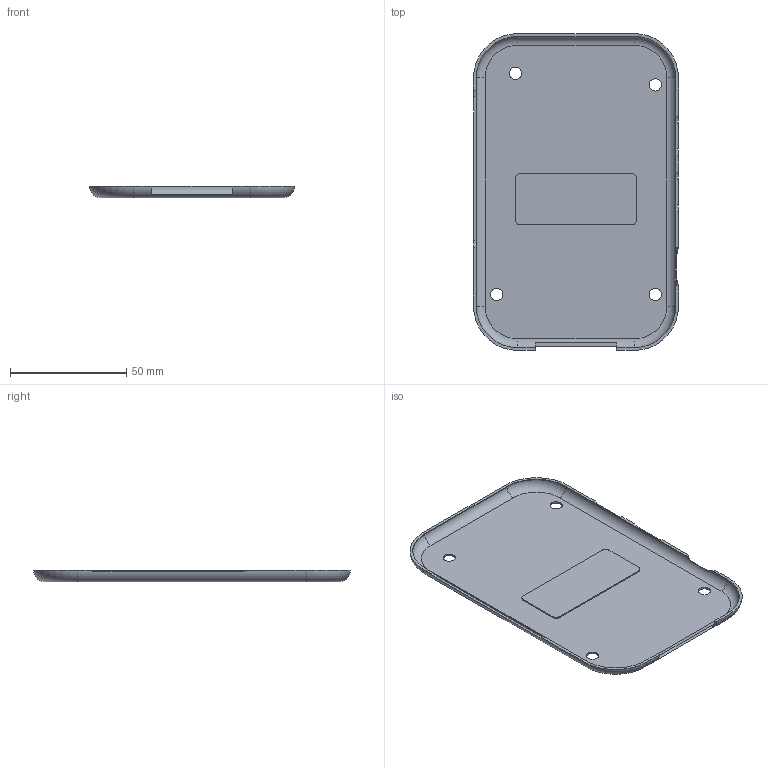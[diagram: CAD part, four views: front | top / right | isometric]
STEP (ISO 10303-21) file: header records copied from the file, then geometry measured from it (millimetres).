
FILE_DESCRIPTION(('Open CASCADE Model'),'2;1');
FILE_NAME('Open CASCADE Shape Model','2026-09-06T11:38:36',('Author'),( 'Open CASCADE'),'Open CASCADE STEP processor 7.7','Open CASCADE 7.7' ,'Unknown');
FILE_SCHEMA(('AUTOMOTIVE_DESIGN { 1 0 10303 214 1 1 1 1 }'));
Length unit declared in the file: millimetre
Products named in the file (1): Open CASCADE STEP translator 7.7 7
Bounding box: 88 x 136 x 4.9 mm (x, y, z)
Volume: 10613.9 mm3; surface area: 25172 mm2
Topology: 1 solids, 1 shells, 10148 faces, 30298 edges, 20196 vertices
Faces by surface type: plane 10110, cylinder 30, torus 8
Full cylindrical faces by diameter (mm): 5.3 x4
Entity records: 728034 total; most frequent: CARTESIAN_POINT 121813, DIRECTION 111142, LINE 90690, VECTOR 90690, ORIENTED_EDGE 60596, PCURVE 60596, DEFINITIONAL_REPRESENTATION 60596, EDGE_CURVE 30298
